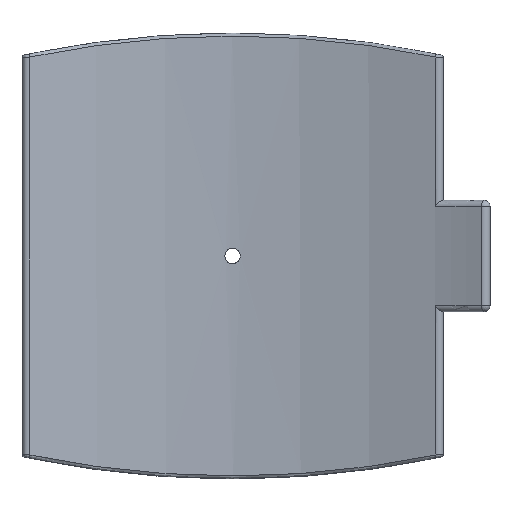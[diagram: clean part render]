
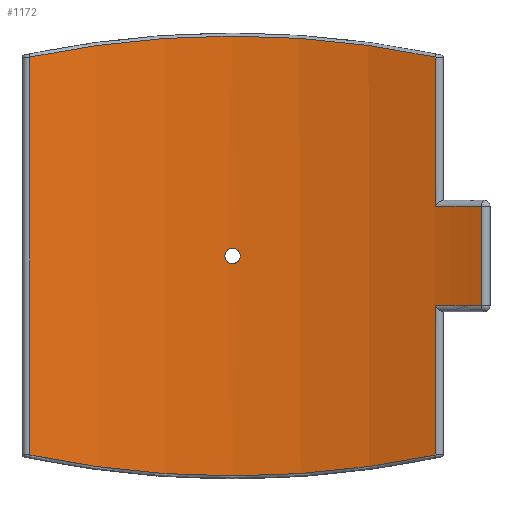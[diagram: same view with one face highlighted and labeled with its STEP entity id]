
A CAD part, front view. The second image highlights one B-rep face of the part: STEP entity #1172.
In plain terms, the highlighted cylindrical face has radius 400 mm (diameter 800 mm), a partial arc.
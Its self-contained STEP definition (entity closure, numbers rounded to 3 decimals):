
#72=CIRCLE('',#1275,400.);
#73=CIRCLE('',#1276,400.);
#152=LINE('',#2611,#202);
#153=LINE('',#2627,#203);
#154=LINE('',#2629,#204);
#155=LINE('',#2633,#205);
#202=VECTOR('',#1469,10.);
#203=VECTOR('',#1474,10.);
#204=VECTOR('',#1475,10.);
#205=VECTOR('',#1478,10.);
#237=FACE_BOUND('',#368,.T.);
#288=FACE_OUTER_BOUND('',#367,.T.);
#367=EDGE_LOOP('',(#890,#891,#892,#893,#894,#895,#896,#897));
#368=EDGE_LOOP('',(#898,#899));
#455=B_SPLINE_CURVE_WITH_KNOTS('',3,(#2099,#2100,#2101,#2102,#2103,#2104,
#2105),.UNSPECIFIED.,.F.,.F.,(4,1,1,1,4),(-28.16,-20.114,
-12.068,-4.023,0.),.UNSPECIFIED.);
#470=B_SPLINE_CURVE_WITH_KNOTS('',3,(#2438,#2439,#2440,#2441,#2442,#2443,
#2444),.UNSPECIFIED.,.F.,.F.,(4,1,1,1,4),(-28.16,-20.114,
-12.068,-4.023,0.),.UNSPECIFIED.);
#480=B_SPLINE_CURVE_WITH_KNOTS('',3,(#2637,#2638,#2639,#2640,#2641,#2642,
#2643,#2644,#2645,#2646),.UNSPECIFIED.,.F.,.F.,(4,2,2,2,4),(0.,0.196,
0.392,0.588,0.784),.UNSPECIFIED.);
#481=B_SPLINE_CURVE_WITH_KNOTS('',3,(#2647,#2648,#2649,#2650,#2651,#2652,
#2653,#2654,#2655,#2656,#2657,#2658,#2659,#2660,#2661,#2662,#2663,#2664,
#2665,#2666,#2667,#2668,#2669,#2670,#2671,#2672),.UNSPECIFIED.,.F.,.F.,
(4,2,2,2,2,2,2,2,2,2,2,2,4),(0.784,0.979,1.175,
1.371,1.567,1.763,1.959,2.155,
2.351,2.546,2.742,2.938,3.134),
 .UNSPECIFIED.);
#506=VERTEX_POINT('',#2047);
#508=VERTEX_POINT('',#2097);
#524=VERTEX_POINT('',#2386);
#526=VERTEX_POINT('',#2436);
#535=VERTEX_POINT('',#2610);
#537=VERTEX_POINT('',#2628);
#538=VERTEX_POINT('',#2630);
#539=VERTEX_POINT('',#2632);
#540=VERTEX_POINT('',#2635);
#541=VERTEX_POINT('',#2636);
#619=EDGE_CURVE('',#508,#506,#455,.T.);
#651=EDGE_CURVE('',#526,#524,#470,.T.);
#668=EDGE_CURVE('',#506,#535,#152,.T.);
#671=EDGE_CURVE('',#524,#508,#153,.T.);
#672=EDGE_CURVE('',#537,#526,#154,.T.);
#673=EDGE_CURVE('',#538,#537,#72,.T.);
#674=EDGE_CURVE('',#539,#538,#155,.T.);
#675=EDGE_CURVE('',#535,#539,#73,.T.);
#676=EDGE_CURVE('',#540,#541,#480,.T.);
#677=EDGE_CURVE('',#541,#540,#481,.T.);
#890=ORIENTED_EDGE('',*,*,#619,.F.);
#891=ORIENTED_EDGE('',*,*,#671,.F.);
#892=ORIENTED_EDGE('',*,*,#651,.F.);
#893=ORIENTED_EDGE('',*,*,#672,.F.);
#894=ORIENTED_EDGE('',*,*,#673,.F.);
#895=ORIENTED_EDGE('',*,*,#674,.F.);
#896=ORIENTED_EDGE('',*,*,#675,.F.);
#897=ORIENTED_EDGE('',*,*,#668,.F.);
#898=ORIENTED_EDGE('',*,*,#676,.T.);
#899=ORIENTED_EDGE('',*,*,#677,.T.);
#1121=CYLINDRICAL_SURFACE('',#1274,400.);
#1172=ADVANCED_FACE('',(#288,#237),#1121,.F.);
#1274=AXIS2_PLACEMENT_3D('',#2626,#1472,#1473);
#1275=AXIS2_PLACEMENT_3D('',#2631,#1476,#1477);
#1276=AXIS2_PLACEMENT_3D('',#2634,#1479,#1480);
#1469=DIRECTION('',(0.,0.,-1.));
#1472=DIRECTION('center_axis',(0.,0.,1.));
#1473=DIRECTION('ref_axis',(-1.,0.,0.));
#1474=DIRECTION('',(0.,0.,1.));
#1475=DIRECTION('',(0.,0.,-1.));
#1476=DIRECTION('center_axis',(0.,0.,1.));
#1477=DIRECTION('ref_axis',(0.394,0.919,0.));
#1478=DIRECTION('',(0.,0.,-1.));
#1479=DIRECTION('center_axis',(0.,0.,-1.));
#1480=DIRECTION('ref_axis',(0.394,0.919,0.));
#2047=CARTESIAN_POINT('',(136.386,376.03,133.942));
#2097=CARTESIAN_POINT('',(-136.386,376.03,133.942));
#2099=CARTESIAN_POINT('Ctrl Pts',(-136.386,376.03,133.942));
#2100=CARTESIAN_POINT('Ctrl Pts',(-111.763,384.961,139.072));
#2101=CARTESIAN_POINT('Ctrl Pts',(-60.283,398.133,146.869));
#2102=CARTESIAN_POINT('Ctrl Pts',(20.189,402.187,149.316));
#2103=CARTESIAN_POINT('Ctrl Pts',(86.319,392.143,143.292));
#2104=CARTESIAN_POINT('Ctrl Pts',(124.075,380.496,136.507));
#2105=CARTESIAN_POINT('Ctrl Pts',(136.386,376.03,133.942));
#2386=CARTESIAN_POINT('',(-136.386,376.03,-133.942));
#2436=CARTESIAN_POINT('',(136.386,376.03,-133.942));
#2438=CARTESIAN_POINT('Ctrl Pts',(136.386,376.03,-133.942));
#2439=CARTESIAN_POINT('Ctrl Pts',(111.763,384.961,-139.072));
#2440=CARTESIAN_POINT('Ctrl Pts',(60.283,398.133,-146.869));
#2441=CARTESIAN_POINT('Ctrl Pts',(-20.189,402.187,-149.316));
#2442=CARTESIAN_POINT('Ctrl Pts',(-86.319,392.143,-143.292));
#2443=CARTESIAN_POINT('Ctrl Pts',(-124.075,380.496,-136.507));
#2444=CARTESIAN_POINT('Ctrl Pts',(-136.386,376.03,-133.942));
#2610=CARTESIAN_POINT('',(136.386,376.03,33.5));
#2611=CARTESIAN_POINT('',(136.386,376.03,0.));
#2626=CARTESIAN_POINT('Origin',(0.,0.,0.));
#2627=CARTESIAN_POINT('',(-136.386,376.03,0.));
#2628=CARTESIAN_POINT('',(136.386,376.03,-33.5));
#2629=CARTESIAN_POINT('',(136.386,376.03,0.));
#2630=CARTESIAN_POINT('',(167.574,363.206,-33.5));
#2631=CARTESIAN_POINT('Origin',(0.,0.,-33.5));
#2632=CARTESIAN_POINT('',(167.574,363.206,33.5));
#2633=CARTESIAN_POINT('',(167.574,363.206,0.));
#2634=CARTESIAN_POINT('Origin',(0.,0.,33.5));
#2635=CARTESIAN_POINT('',(5.2,399.966,0.));
#2636=CARTESIAN_POINT('',(0.,400.,-5.2));
#2637=CARTESIAN_POINT('Ctrl Pts',(5.2,399.966,0.));
#2638=CARTESIAN_POINT('Ctrl Pts',(5.2,399.966,-0.653));
#2639=CARTESIAN_POINT('Ctrl Pts',(5.07,399.968,-1.349));
#2640=CARTESIAN_POINT('Ctrl Pts',(4.539,399.974,-2.631));
#2641=CARTESIAN_POINT('Ctrl Pts',(4.139,399.979,-3.215));
#2642=CARTESIAN_POINT('Ctrl Pts',(3.215,399.987,-4.139));
#2643=CARTESIAN_POINT('Ctrl Pts',(2.631,399.992,-4.539));
#2644=CARTESIAN_POINT('Ctrl Pts',(1.349,399.998,-5.07));
#2645=CARTESIAN_POINT('Ctrl Pts',(0.653,400.,-5.2));
#2646=CARTESIAN_POINT('Ctrl Pts',(0.,400.,-5.2));
#2647=CARTESIAN_POINT('Ctrl Pts',(0.,400.,-5.2));
#2648=CARTESIAN_POINT('Ctrl Pts',(-0.653,400.,-5.2));
#2649=CARTESIAN_POINT('Ctrl Pts',(-1.349,399.998,-5.07));
#2650=CARTESIAN_POINT('Ctrl Pts',(-2.631,399.992,-4.539));
#2651=CARTESIAN_POINT('Ctrl Pts',(-3.215,399.987,-4.139));
#2652=CARTESIAN_POINT('Ctrl Pts',(-4.139,399.979,-3.215));
#2653=CARTESIAN_POINT('Ctrl Pts',(-4.539,399.974,-2.631));
#2654=CARTESIAN_POINT('Ctrl Pts',(-5.07,399.968,-1.349));
#2655=CARTESIAN_POINT('Ctrl Pts',(-5.2,399.966,-0.653));
#2656=CARTESIAN_POINT('Ctrl Pts',(-5.2,399.966,0.653));
#2657=CARTESIAN_POINT('Ctrl Pts',(-5.07,399.968,1.349));
#2658=CARTESIAN_POINT('Ctrl Pts',(-4.539,399.974,2.631));
#2659=CARTESIAN_POINT('Ctrl Pts',(-4.139,399.979,3.215));
#2660=CARTESIAN_POINT('Ctrl Pts',(-3.215,399.987,4.139));
#2661=CARTESIAN_POINT('Ctrl Pts',(-2.631,399.992,4.539));
#2662=CARTESIAN_POINT('Ctrl Pts',(-1.349,399.998,5.07));
#2663=CARTESIAN_POINT('Ctrl Pts',(-0.653,400.,5.2));
#2664=CARTESIAN_POINT('Ctrl Pts',(0.653,400.,5.2));
#2665=CARTESIAN_POINT('Ctrl Pts',(1.349,399.998,5.07));
#2666=CARTESIAN_POINT('Ctrl Pts',(2.631,399.992,4.539));
#2667=CARTESIAN_POINT('Ctrl Pts',(3.215,399.987,4.139));
#2668=CARTESIAN_POINT('Ctrl Pts',(4.139,399.979,3.215));
#2669=CARTESIAN_POINT('Ctrl Pts',(4.539,399.974,2.631));
#2670=CARTESIAN_POINT('Ctrl Pts',(5.07,399.968,1.349));
#2671=CARTESIAN_POINT('Ctrl Pts',(5.2,399.966,0.653));
#2672=CARTESIAN_POINT('Ctrl Pts',(5.2,399.966,0.));
